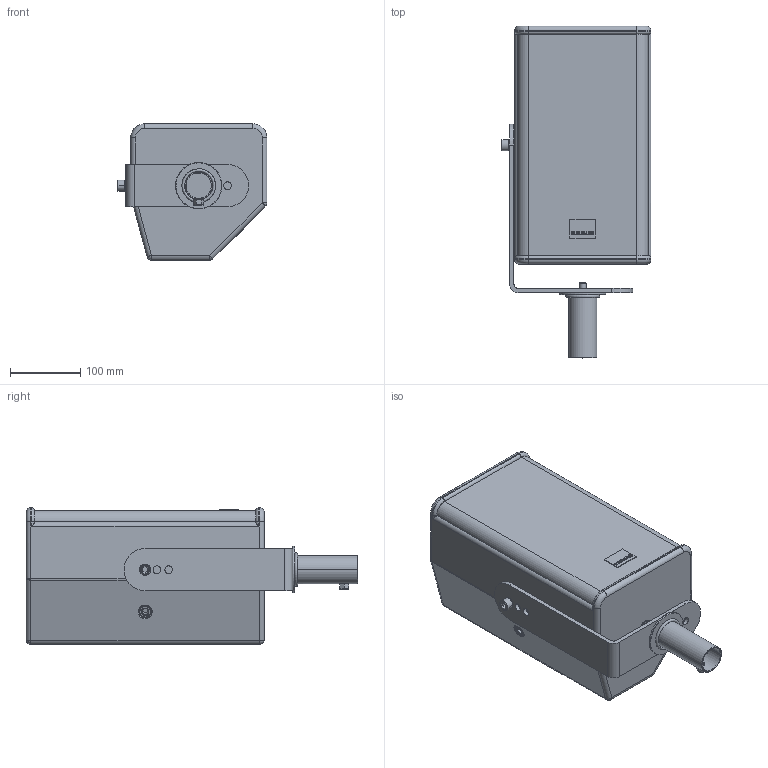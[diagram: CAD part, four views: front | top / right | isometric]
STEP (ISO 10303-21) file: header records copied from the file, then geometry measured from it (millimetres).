
FILE_DESCRIPTION (( 'STEP AP203' ), '1' );
FILE_NAME ('Seeburg_TSNano_J-Bracket_ver.STEP', '2012-10-17T12:23:37', ( 'Fabian' ), ( '' ), 'SwSTEP 2.0', 'SolidWorks 2009', '' );
FILE_SCHEMA (( 'CONFIG_CONTROL_DESIGN' ));
Length unit declared in the file: millimetre
Products named in the file (15): Imported171; Imported170; Imported176; Imported181; Seeburg_TSNano_J-Bracket_ver; TSNano_J-Bracket-ver; Imported172; Imported173; Imported174; Imported175; Imported177; Imported178; Imported179; Imported180; Imported182
Assembly tree (14 placements, depth 3):
  Seeburg_TSNano_J-Bracket_ver
    TSNano_J-Bracket-ver
      Imported175
      Imported179
      Imported176
      Imported170
      Imported177
      Imported178
      Imported172
      Imported181
      Imported174
      Imported180
      Imported182
      Imported173
      Imported171
Bounding box: 213.3 x 472.5 x 194 mm (x, y, z)
Volume: 4538528.4 mm3; surface area: 745593.8 mm2
Topology: 21 solids, 21 shells, 469 faces, 1134 edges, 720 vertices
Faces by surface type: cylinder 212, plane 163, cone 65, torus 18, sphere 11
Entity records: 15909 total; most frequent: CARTESIAN_POINT 2980, DIRECTION 2563, ORIENTED_EDGE 2252, EDGE_CURVE 1126, AXIS2_PLACEMENT_3D 991, VERTEX_POINT 716, VECTOR 581, LINE 581
